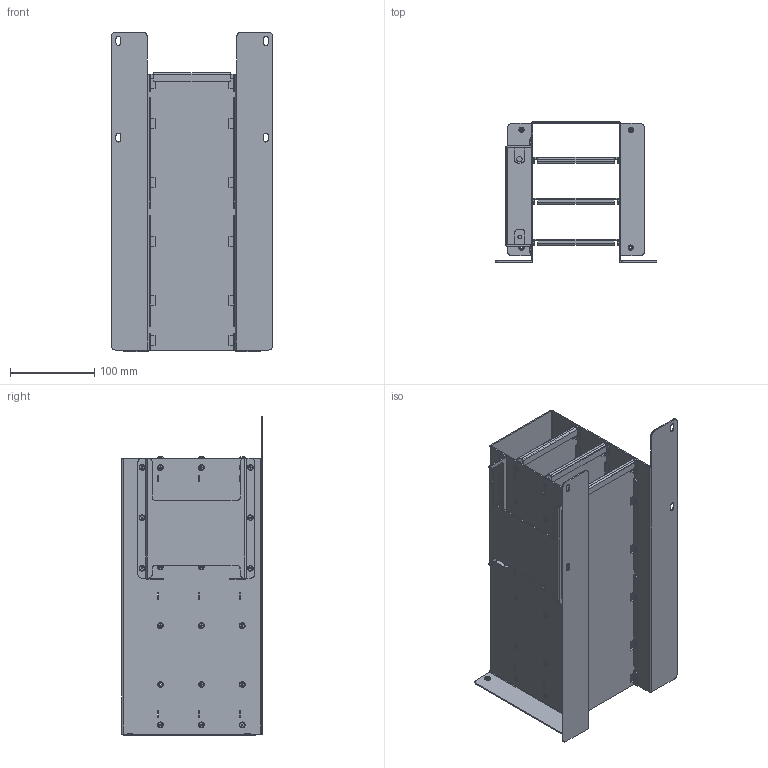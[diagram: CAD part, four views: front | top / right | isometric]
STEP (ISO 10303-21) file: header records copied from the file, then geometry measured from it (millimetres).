
FILE_DESCRIPTION (( 'STEP AP214' ), '1' );
FILE_NAME ('PSU_chassis.STEP', '2022-01-04T15:21:33', ( '' ), ( '' ), 'SwSTEP 2.0', 'SolidWorks 2016', '' );
FILE_SCHEMA (( 'AUTOMOTIVE_DESIGN' ));
Length unit declared in the file: millimetre
Products named in the file (6): flat_rivet_SKK3040PT_D‚faut; SP-M3-2-PennEngineering_D‚faut; horizontal_support_D‚faut; Switch_bracket_D‚faut; Main_bracket_D‚faut; PSU_chassis
Assembly tree (51 placements, depth 2):
  PSU_chassis
    Main_bracket_D‚faut
    horizontal_support_D‚faut  x3
    Switch_bracket_D‚faut
    SP-M3-2-PennEngineering_D‚faut  x4
    flat_rivet_SKK3040PT_D‚faut  x42
Bounding box: 192 x 167.67 x 379.9 mm (x, y, z)
Volume: 466713.4 mm3; surface area: 640743.8 mm2
Topology: 51 solids, 51 shells, 2534 faces, 6414 edges, 3910 vertices
Faces by surface type: plane 1196, cylinder 886, cone 452
Entity records: 30146 total; most frequent: DIRECTION 5176, CARTESIAN_POINT 5145, ORIENTED_EDGE 4964, EDGE_CURVE 2482, AXIS2_PLACEMENT_3D 1779, VECTOR 1618, LINE 1618, VERTEX_POINT 1556
